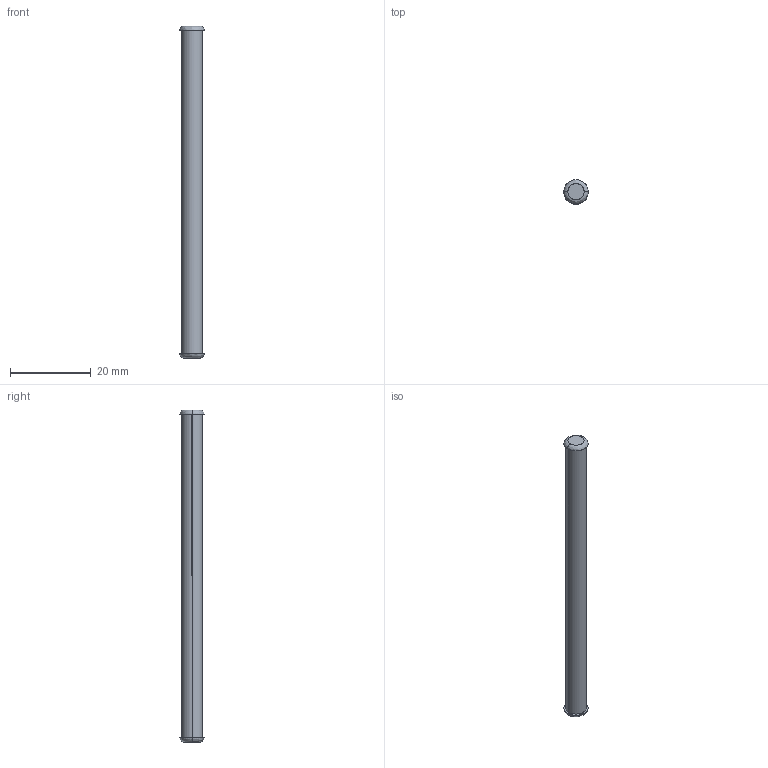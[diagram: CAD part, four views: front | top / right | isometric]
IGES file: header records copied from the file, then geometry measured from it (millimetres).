
Start section: SolidWorks IGES file using analytic representation for surfaces
Global section: file name: C:\Users\cbrechard.SAV\Desktop\GE 91\91 100 00.IGS; native system: SolidWorks 2013; preprocessor: SolidWorks 2013; author: cbrechard; date: 150422.173726; units: millimetre
Bounding box: 6 x 6 x 82 mm (x, y, z)
Surface area: 1351.1 mm2 (no closed solid volume)
Topology: 0 solids, 0 shells, 10 faces, 216 edges, 216 vertices
Faces by surface type: bspline 8, revolution 2
